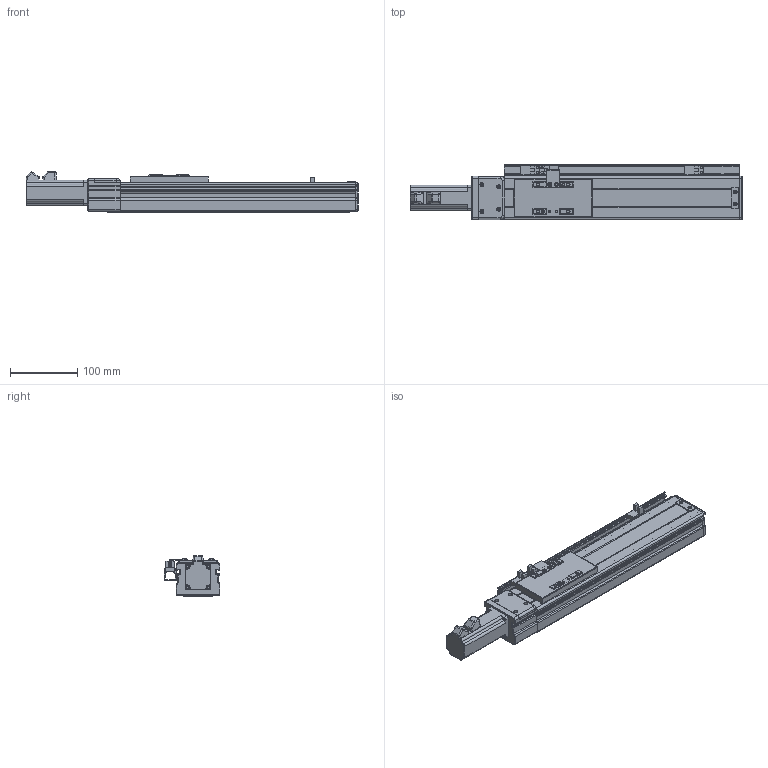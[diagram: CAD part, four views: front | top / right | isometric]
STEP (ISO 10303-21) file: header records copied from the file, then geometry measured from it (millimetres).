
FILE_DESCRIPTION (( 'STEP AP203' ), '1' );
FILE_NAME ('VT6-L10-C-S200-BC-P10-C4.STEP', '2015-10-26T04:09:43', ( '' ), ( '' ), 'SwSTEP 2.0', 'SolidWorks 2013', '' );
FILE_SCHEMA (( 'CONFIG_CONTROL_DESIGN' ));
Length unit declared in the file: millimetre
Products named in the file (15): ET6-BC耜啣_200; ET6-BC癹弇羲壽羞_200; T6-賑雄殤; T6-裔啣; T6-揤輸; T6-覜茼え; T6-綴傷裔; EE-XS674; ET6-BC絳寢_俴最200; ET6-BC滅鳥湍_200; T6-BCヶ傷裔揤啣; T6-BCヶ傷裔; 侂狟100W MSMD012G1U; ET6-BC佪裝_200; VT6-L10-C-S200-BC-P10-C4
Assembly tree (17 placements, depth 2):
  VT6-L10-C-S200-BC-P10-C4
    ET6-BC耜啣_200  x2
    ET6-BC癹弇羲壽羞_200
    T6-賑雄殤
    T6-裔啣
    T6-揤輸
    T6-覜茼え
    T6-綴傷裔
    EE-XS674  x3
    ET6-BC絳寢_俴最200
    ET6-BC滅鳥湍_200
    T6-BCヶ傷裔揤啣
    T6-BCヶ傷裔
    侂狟100W MSMD012G1U
    ET6-BC佪裝_200
Bounding box: 494 x 83 x 61 mm (x, y, z)
Volume: 639289.3 mm3; surface area: 322905.7 mm2
Topology: 17 solids, 17 shells, 864 faces, 2277 edges, 1436 vertices
Faces by surface type: cylinder 384, plane 378, cone 56, torus 28, sphere 18
Entity records: 26366 total; most frequent: CARTESIAN_POINT 4585, DIRECTION 4381, ORIENTED_EDGE 4080, EDGE_CURVE 2040, AXIS2_PLACEMENT_3D 1584, VERTEX_POINT 1296, VECTOR 1213, LINE 1213
